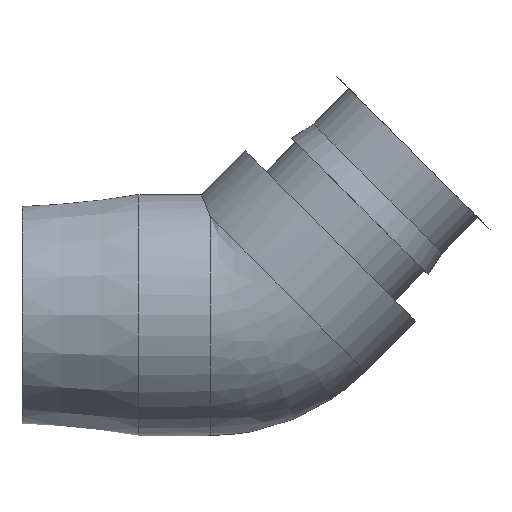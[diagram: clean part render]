
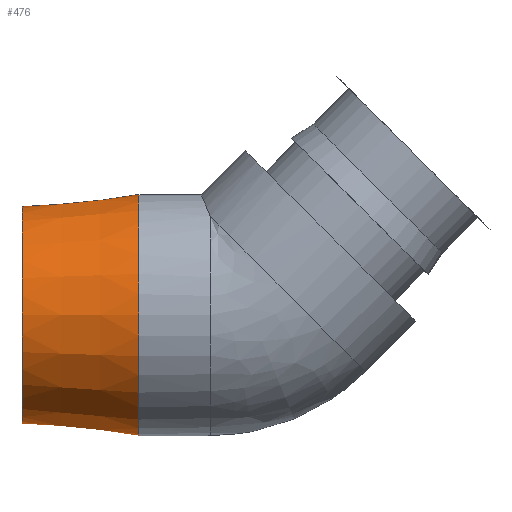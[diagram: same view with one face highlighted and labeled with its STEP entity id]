
A CAD part, front view. The second image highlights one B-rep face of the part: STEP entity #476.
In plain terms, the highlighted conical face has half-angle 5.884 degrees and reference radius 26.422 mm.
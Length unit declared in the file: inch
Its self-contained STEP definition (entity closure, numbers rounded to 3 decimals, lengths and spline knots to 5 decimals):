
#17=B_SPLINE_CURVE_WITH_KNOTS('',3,(#902,#903,#904,#905,#906,#907,#908,
#909,#910,#911),.UNSPECIFIED.,.F.,.F.,(4,2,2,2,4),(0.,0.3433,
0.68659,1.03292,1.37924),.UNSPECIFIED.);
#18=B_SPLINE_CURVE_WITH_KNOTS('',3,(#912,#913,#914,#915,#916,#917,#918,
#919,#920,#921,#922,#923,#924,#925,#926,#927,#928,#929,#930,#931,#932,#933,
#934,#935,#936,#937),.UNSPECIFIED.,.F.,.F.,(4,2,2,2,2,2,2,2,2,2,2,2,4),
(1.37924,1.72557,2.07189,2.41519,2.75849,
3.13051,3.50254,3.86541,4.22828,4.59115,
4.95403,5.32605,5.69808),.UNSPECIFIED.);
#24=CONICAL_SURFACE('',#569,1.04025,0.103);
#39=FACE_BOUND('',#153,.T.);
#55=LINE('',#968,#71);
#71=VECTOR('',#733,1.04025);
#111=FACE_OUTER_BOUND('',#152,.T.);
#152=EDGE_LOOP('',(#427,#428,#429,#430,#431,#432));
#153=EDGE_LOOP('',(#433,#434));
#187=CIRCLE('',#555,1.095);
#188=CIRCLE('',#556,1.095);
#195=CIRCLE('',#567,0.9855);
#196=CIRCLE('',#568,0.9855);
#231=VERTEX_POINT('',#900);
#232=VERTEX_POINT('',#901);
#233=VERTEX_POINT('',#940);
#234=VERTEX_POINT('',#942);
#241=VERTEX_POINT('',#963);
#242=VERTEX_POINT('',#964);
#290=EDGE_CURVE('',#231,#232,#17,.T.);
#291=EDGE_CURVE('',#232,#231,#18,.T.);
#294=EDGE_CURVE('',#233,#234,#187,.T.);
#295=EDGE_CURVE('',#234,#233,#188,.T.);
#304=EDGE_CURVE('',#241,#242,#195,.T.);
#305=EDGE_CURVE('',#242,#241,#196,.T.);
#306=EDGE_CURVE('',#233,#242,#55,.T.);
#427=ORIENTED_EDGE('',*,*,#295,.F.);
#428=ORIENTED_EDGE('',*,*,#294,.F.);
#429=ORIENTED_EDGE('',*,*,#306,.T.);
#430=ORIENTED_EDGE('',*,*,#305,.T.);
#431=ORIENTED_EDGE('',*,*,#304,.T.);
#432=ORIENTED_EDGE('',*,*,#306,.F.);
#433=ORIENTED_EDGE('',*,*,#290,.T.);
#434=ORIENTED_EDGE('',*,*,#291,.T.);
#476=ADVANCED_FACE('',(#111,#39),#24,.T.);
#555=AXIS2_PLACEMENT_3D('',#943,#701,#702);
#556=AXIS2_PLACEMENT_3D('',#944,#703,#704);
#567=AXIS2_PLACEMENT_3D('',#965,#727,#728);
#568=AXIS2_PLACEMENT_3D('',#966,#729,#730);
#569=AXIS2_PLACEMENT_3D('',#967,#731,#732);
#701=DIRECTION('center_axis',(1.,0.,0.));
#702=DIRECTION('ref_axis',(0.,0.,-1.));
#703=DIRECTION('center_axis',(1.,0.,0.));
#704=DIRECTION('ref_axis',(0.,0.,-1.));
#727=DIRECTION('center_axis',(1.,0.,0.));
#728=DIRECTION('ref_axis',(0.,0.,-1.));
#729=DIRECTION('center_axis',(1.,0.,0.));
#730=DIRECTION('ref_axis',(0.,0.,-1.));
#731=DIRECTION('center_axis',(1.,0.,0.));
#732=DIRECTION('ref_axis',(0.,1.,0.));
#733=DIRECTION('',(-0.995,0.103,0.));
#900=CARTESIAN_POINT('',(-1.50416,0.97714,0.37039));
#901=CARTESIAN_POINT('',(-1.8555,1.00878,0.));
#902=CARTESIAN_POINT('Ctrl Pts',(-1.50416,0.97714,0.37039));
#903=CARTESIAN_POINT('Ctrl Pts',(-1.54897,0.97283,0.36875));
#904=CARTESIAN_POINT('Ctrl Pts',(-1.59654,0.97179,0.35805));
#905=CARTESIAN_POINT('Ctrl Pts',(-1.68337,0.97605,0.31851));
#906=CARTESIAN_POINT('Ctrl Pts',(-1.72263,0.98112,0.2897));
#907=CARTESIAN_POINT('Ctrl Pts',(-1.78448,0.99155,0.22445));
#908=CARTESIAN_POINT('Ctrl Pts',(-1.81126,0.99761,0.18341));
#909=CARTESIAN_POINT('Ctrl Pts',(-1.84677,1.0063,0.09392));
#910=CARTESIAN_POINT('Ctrl Pts',(-1.8555,1.00878,0.04545));
#911=CARTESIAN_POINT('Ctrl Pts',(-1.8555,1.00878,0.));
#912=CARTESIAN_POINT('Ctrl Pts',(-1.8555,1.00878,0.));
#913=CARTESIAN_POINT('Ctrl Pts',(-1.8555,1.00878,-0.04545));
#914=CARTESIAN_POINT('Ctrl Pts',(-1.84677,1.0063,-0.09392));
#915=CARTESIAN_POINT('Ctrl Pts',(-1.81126,0.99761,-0.18341));
#916=CARTESIAN_POINT('Ctrl Pts',(-1.78448,0.99155,-0.22445));
#917=CARTESIAN_POINT('Ctrl Pts',(-1.72263,0.98112,-0.2897));
#918=CARTESIAN_POINT('Ctrl Pts',(-1.68337,0.97605,-0.31851));
#919=CARTESIAN_POINT('Ctrl Pts',(-1.59654,0.97179,-0.35805));
#920=CARTESIAN_POINT('Ctrl Pts',(-1.54897,0.97283,-0.36875));
#921=CARTESIAN_POINT('Ctrl Pts',(-1.45559,0.98182,-0.37217));
#922=CARTESIAN_POINT('Ctrl Pts',(-1.40439,0.99088,-0.3636));
#923=CARTESIAN_POINT('Ctrl Pts',(-1.3109,1.01393,-0.32625));
#924=CARTESIAN_POINT('Ctrl Pts',(-1.26853,1.02767,-0.29749));
#925=CARTESIAN_POINT('Ctrl Pts',(-1.20243,1.05147,-0.23141));
#926=CARTESIAN_POINT('Ctrl Pts',(-1.17387,1.06321,-0.18988));
#927=CARTESIAN_POINT('Ctrl Pts',(-1.13568,1.07953,-0.098));
#928=CARTESIAN_POINT('Ctrl Pts',(-1.12608,1.08395,-0.04762));
#929=CARTESIAN_POINT('Ctrl Pts',(-1.12608,1.08395,0.04762));
#930=CARTESIAN_POINT('Ctrl Pts',(-1.13568,1.07953,0.098));
#931=CARTESIAN_POINT('Ctrl Pts',(-1.17387,1.06321,0.18988));
#932=CARTESIAN_POINT('Ctrl Pts',(-1.20243,1.05147,0.23141));
#933=CARTESIAN_POINT('Ctrl Pts',(-1.26853,1.02767,0.29749));
#934=CARTESIAN_POINT('Ctrl Pts',(-1.3109,1.01393,0.32625));
#935=CARTESIAN_POINT('Ctrl Pts',(-1.40439,0.99088,0.3636));
#936=CARTESIAN_POINT('Ctrl Pts',(-1.45559,0.98182,0.37217));
#937=CARTESIAN_POINT('Ctrl Pts',(-1.50416,0.97714,0.37039));
#940=CARTESIAN_POINT('',(-1.01888,-1.095,0.));
#942=CARTESIAN_POINT('',(-1.01888,1.095,0.));
#943=CARTESIAN_POINT('Origin',(-1.01888,0.,
0.));
#944=CARTESIAN_POINT('Origin',(-1.01888,0.,
0.));
#963=CARTESIAN_POINT('',(-2.08138,0.9855,0.));
#964=CARTESIAN_POINT('',(-2.08138,-0.9855,0.));
#965=CARTESIAN_POINT('Origin',(-2.08138,0.,0.));
#966=CARTESIAN_POINT('Origin',(-2.08138,0.,0.));
#967=CARTESIAN_POINT('Origin',(-1.55013,0.,
0.));
#968=CARTESIAN_POINT('',(-1.55013,-1.04025,0.));
